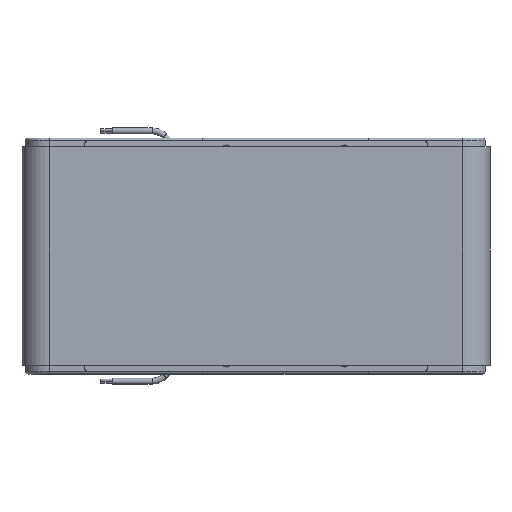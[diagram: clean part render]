
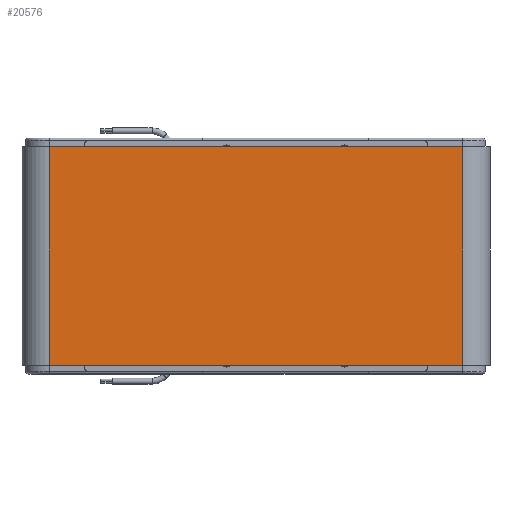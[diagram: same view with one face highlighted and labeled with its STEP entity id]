
A CAD part, left-side view. The second image highlights one B-rep face of the part: STEP entity #20576.
In plain terms, the highlighted planar face has unit normal (-1, 0, 0).
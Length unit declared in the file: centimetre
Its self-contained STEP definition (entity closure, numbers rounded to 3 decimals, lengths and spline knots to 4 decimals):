
#2168=FACE_OUTER_BOUND('',#3302,.T.);
#3302=EDGE_LOOP('',(#13806,#13807,#13808,#13809));
#4704=LINE('',#30289,#6309);
#4705=LINE('',#30294,#6310);
#4707=LINE('',#30298,#6312);
#4708=LINE('',#30299,#6313);
#6309=VECTOR('',#24738,1.);
#6310=VECTOR('',#24743,1.);
#6312=VECTOR('',#24747,1.);
#6313=VECTOR('',#24748,1.);
#8111=VERTEX_POINT('',#30283);
#8113=VERTEX_POINT('',#30287);
#8115=VERTEX_POINT('',#30292);
#8116=VERTEX_POINT('',#30297);
#10318=EDGE_CURVE('',#8111,#8113,#4704,.T.);
#10320=EDGE_CURVE('',#8115,#8113,#4705,.T.);
#10322=EDGE_CURVE('',#8115,#8116,#4707,.T.);
#10323=EDGE_CURVE('',#8116,#8111,#4708,.T.);
#13806=ORIENTED_EDGE('',*,*,#10322,.T.);
#13807=ORIENTED_EDGE('',*,*,#10323,.T.);
#13808=ORIENTED_EDGE('',*,*,#10318,.T.);
#13809=ORIENTED_EDGE('',*,*,#10320,.F.);
#18843=PLANE('',#21973);
#20576=ADVANCED_FACE('',(#2168),#18843,.T.);
#21973=AXIS2_PLACEMENT_3D('',#30296,#24745,#24746);
#24738=DIRECTION('',(0.,1.,0.));
#24743=DIRECTION('',(0.,0.,1.));
#24745=DIRECTION('center_axis',(-1.,0.,0.));
#24746=DIRECTION('ref_axis',(0.,0.,
1.));
#24747=DIRECTION('',(0.,-1.,0.));
#24748=DIRECTION('',(0.,0.,1.));
#30283=CARTESIAN_POINT('',(-2.33,-22.,9.25));
#30287=CARTESIAN_POINT('',(-2.33,13.,9.25));
#30289=CARTESIAN_POINT('',(-2.33,13.,9.25));
#30292=CARTESIAN_POINT('',(-2.33,13.,-9.25));
#30294=CARTESIAN_POINT('',(-2.33,13.,0.));
#30296=CARTESIAN_POINT('Origin',(-2.33,13.,0.));
#30297=CARTESIAN_POINT('',(-2.33,-22.,-9.25));
#30298=CARTESIAN_POINT('',(-2.33,13.,-9.25));
#30299=CARTESIAN_POINT('',(-2.33,-22.,0.));
